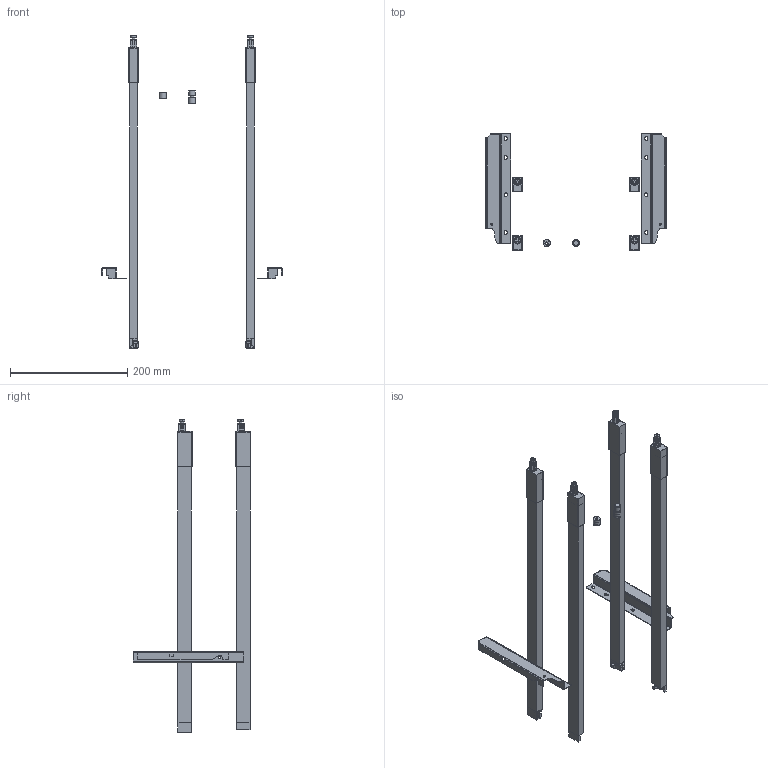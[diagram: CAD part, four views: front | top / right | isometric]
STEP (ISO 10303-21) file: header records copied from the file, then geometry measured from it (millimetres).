
FILE_DESCRIPTION (( 'STEP AP203' ), '1' );
FILE_NAME ('402666.STEP', '2026-01-27T17:26:32', ( '' ), ( '' ), 'SwSTEP 2.0', 'SolidWorks 2025', '' );
FILE_SCHEMA (( 'CONFIG_CONTROL_DESIGN' ));
Length unit declared in the file: millimetre
Products named in the file (10): středový hranatý L_Středový L 550; StrongBox ND držák zad H204_246691 a 246694 L+P; 402666; StrongBox ND držák relingu čelní, hmoždinka_246795 a 246796_3D; horní hranatý L_Horní L 550; horní hranatý P_Horní P 550; středový hranatý P_Středový P 550; StrongBox ND držák zad H204 pravý_246691 a 246694_3D; StrongBox ND držák relingu čelní, vrut_246699 a 246700_3D; StrongBox ND držák zad H204 levý_246691 a 246694_3D
Assembly tree (9 placements, depth 3):
  402666
    StrongBox ND držák zad H204_246691 a 246694 L+P
      StrongBox ND držák zad H204 levý_246691 a 246694_3D
      StrongBox ND držák zad H204 pravý_246691 a 246694_3D
    středový hranatý L_Středový L 550
    středový hranatý P_Středový P 550
    horní hranatý L_Horní L 550
    horní hranatý P_Horní P 550
    StrongBox ND držák relingu čelní, hmoždinka_246795 a 246796_3D
    StrongBox ND držák relingu čelní, vrut_246699 a 246700_3D
Bounding box: 307.4 x 200.24 x 534 mm (x, y, z)
Volume: 636041.7 mm3; surface area: 256519.2 mm2
Topology: 20 solids, 20 shells, 690 faces, 1786 edges, 1178 vertices
Faces by surface type: plane 510, cylinder 170, cone 10
Entity records: 22116 total; most frequent: CARTESIAN_POINT 3725, DIRECTION 3592, ORIENTED_EDGE 3572, EDGE_CURVE 1786, LINE 1366, VECTOR 1366, VERTEX_POINT 1178, AXIS2_PLACEMENT_3D 1113
